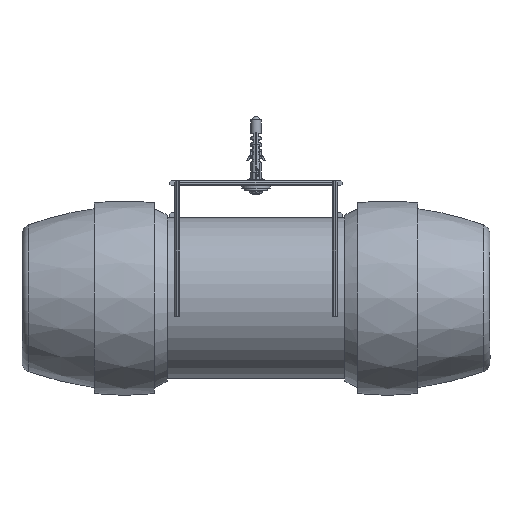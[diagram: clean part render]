
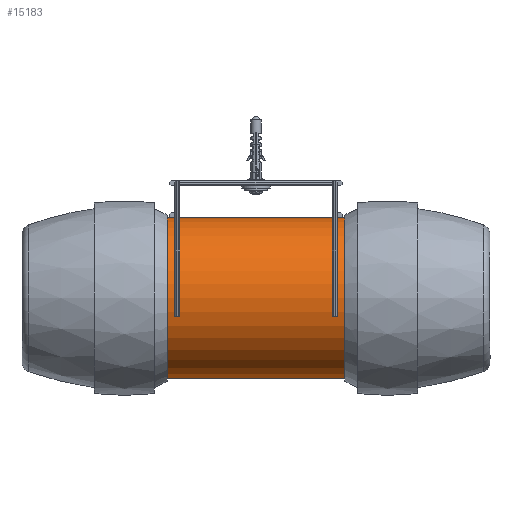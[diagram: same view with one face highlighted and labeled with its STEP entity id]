
A CAD part, front view. The second image highlights one B-rep face of the part: STEP entity #15183.
In plain terms, the highlighted cylindrical face has radius 63 mm (diameter 126 mm), a full revolution.
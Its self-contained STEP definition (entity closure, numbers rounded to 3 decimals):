
#1003=CIRCLE('',#16763,63.);
#1004=CIRCLE('',#16765,63.);
#1116=CYLINDRICAL_SURFACE('',#16764,63.);
#2201=FACE_OUTER_BOUND('',#3047,.T.);
#3047=EDGE_LOOP('',(#13748,#13749,#13750,#13751));
#4412=LINE('',#27145,#5768);
#5768=VECTOR('',#20794,63.);
#7174=VERTEX_POINT('',#27140);
#7175=VERTEX_POINT('',#27143);
#9369=EDGE_CURVE('',#7174,#7174,#1003,.T.);
#9370=EDGE_CURVE('',#7175,#7175,#1004,.T.);
#9371=EDGE_CURVE('',#7175,#7174,#4412,.T.);
#13748=ORIENTED_EDGE('',*,*,#9370,.F.);
#13749=ORIENTED_EDGE('',*,*,#9371,.T.);
#13750=ORIENTED_EDGE('',*,*,#9369,.T.);
#13751=ORIENTED_EDGE('',*,*,#9371,.F.);
#15183=ADVANCED_FACE('',(#2201),#1116,.T.);
#16763=AXIS2_PLACEMENT_3D('',#27141,#20788,#20789);
#16764=AXIS2_PLACEMENT_3D('',#27142,#20790,#20791);
#16765=AXIS2_PLACEMENT_3D('',#27144,#20792,#20793);
#20788=DIRECTION('center_axis',(1.,0.,0.));
#20789=DIRECTION('ref_axis',(0.,-1.,0.));
#20790=DIRECTION('center_axis',(1.,0.,0.));
#20791=DIRECTION('ref_axis',(0.,-1.,0.));
#20792=DIRECTION('center_axis',(1.,0.,0.));
#20793=DIRECTION('ref_axis',(0.,-1.,0.));
#20794=DIRECTION('',(-1.,0.,0.));
#27140=CARTESIAN_POINT('',(-69.5,63.,0.));
#27141=CARTESIAN_POINT('Origin',(-69.5,0.,0.));
#27142=CARTESIAN_POINT('Origin',(34.75,0.,0.));
#27143=CARTESIAN_POINT('',(69.5,63.,0.));
#27144=CARTESIAN_POINT('Origin',(69.5,0.,0.));
#27145=CARTESIAN_POINT('',(34.75,63.,0.));
